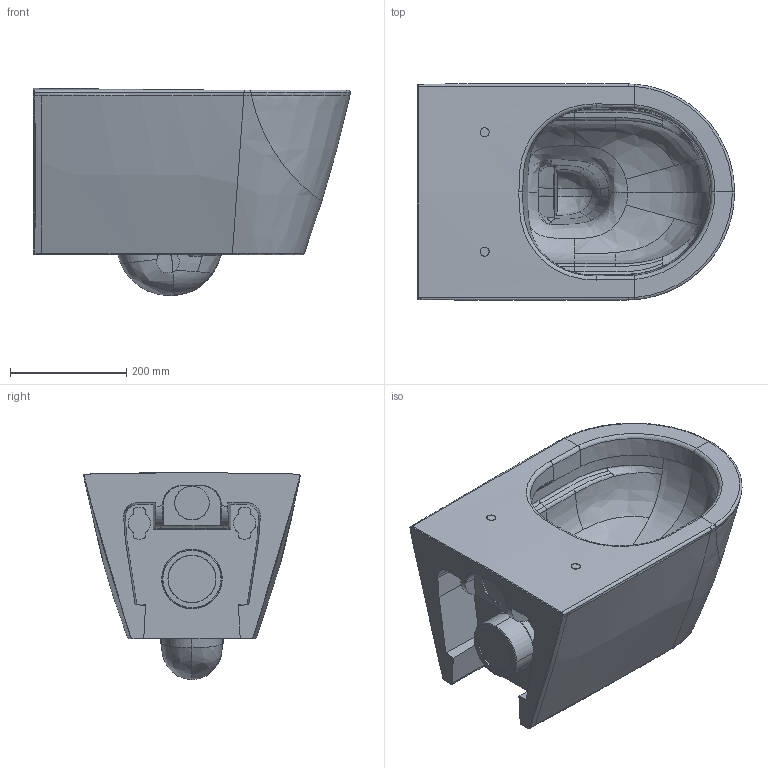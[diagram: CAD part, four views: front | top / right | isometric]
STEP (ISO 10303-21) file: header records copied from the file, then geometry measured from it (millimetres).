
FILE_DESCRIPTION(('STEP AP214'),'1');
FILE_NAME('HY20337BIM.stp','2018-12-13T13:14:46',(' '),(' '),'Spatial InterOp 3D',' ',' ');
FILE_SCHEMA(('automotive_design'));
Length unit declared in the file: millimetre
Products named in the file (1): Korper.2
Bounding box: 545.68 x 373.04 x 356.34 mm (x, y, z)
Volume: 26384445.8 mm3; surface area: 981010 mm2
Topology: 1 solids, 1 shells, 360 faces, 1229 edges, 876 vertices
Faces by surface type: bspline 360
Entity records: 103400 total; most frequent: CARTESIAN_POINT 96140, ORIENTED_EDGE 2454, EDGE_CURVE 1227, B_SPLINE_CURVE_WITH_KNOTS 1227, VERTEX_POINT 876, EDGE_LOOP 367, ADVANCED_FACE 360, FACE_OUTER_BOUND 360
